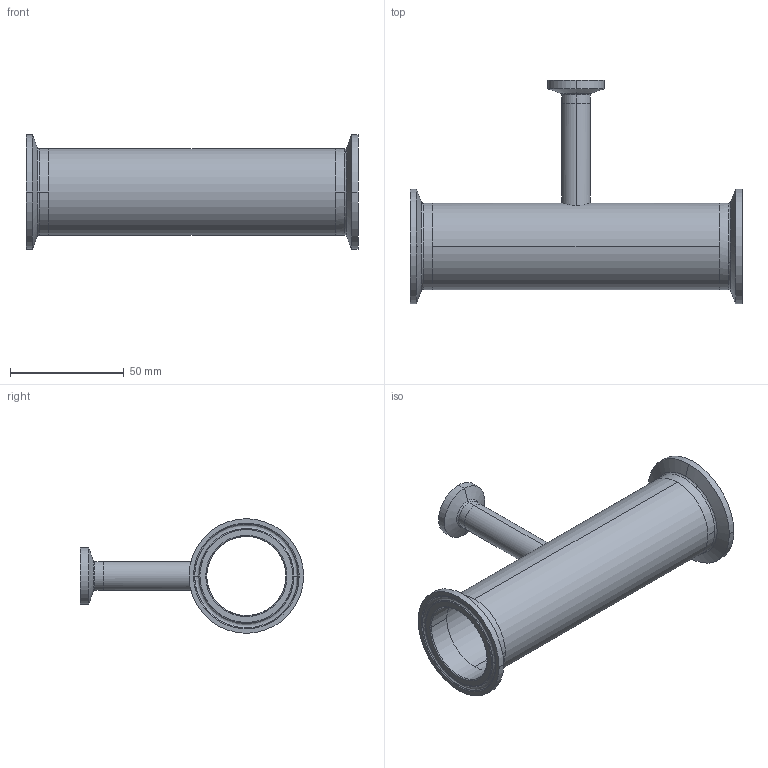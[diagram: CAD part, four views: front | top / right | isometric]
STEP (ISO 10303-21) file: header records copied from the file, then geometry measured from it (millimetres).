
FILE_DESCRIPTION (( 'STEP AP214' ), '1' );
FILE_NAME ('TEG7R6L1.5x.5-...STEP', '2016-05-24T06:04:35', ( 'eran' ), ( '' ), 'SwSTEP 2.0', 'SolidWorks 2016', '' );
FILE_SCHEMA (( 'AUTOMOTIVE_DESIGN' ));
Length unit declared in the file: millimetre
Products named in the file (1): TEG7R6L1.5x.5-..
Bounding box: 146 x 98.2 x 50.39 mm (x, y, z)
Volume: 38240.5 mm3; surface area: 42573.8 mm2
Topology: 4 solids, 4 shells, 84 faces, 198 edges, 126 vertices
Faces by surface type: cylinder 28, bspline 28, cone 16, plane 12
Entity records: 4027 total; most frequent: CARTESIAN_POINT 2041, DIRECTION 426, ORIENTED_EDGE 396, EDGE_CURVE 198, AXIS2_PLACEMENT_3D 191, CIRCLE 134, VERTEX_POINT 126, EDGE_LOOP 98
